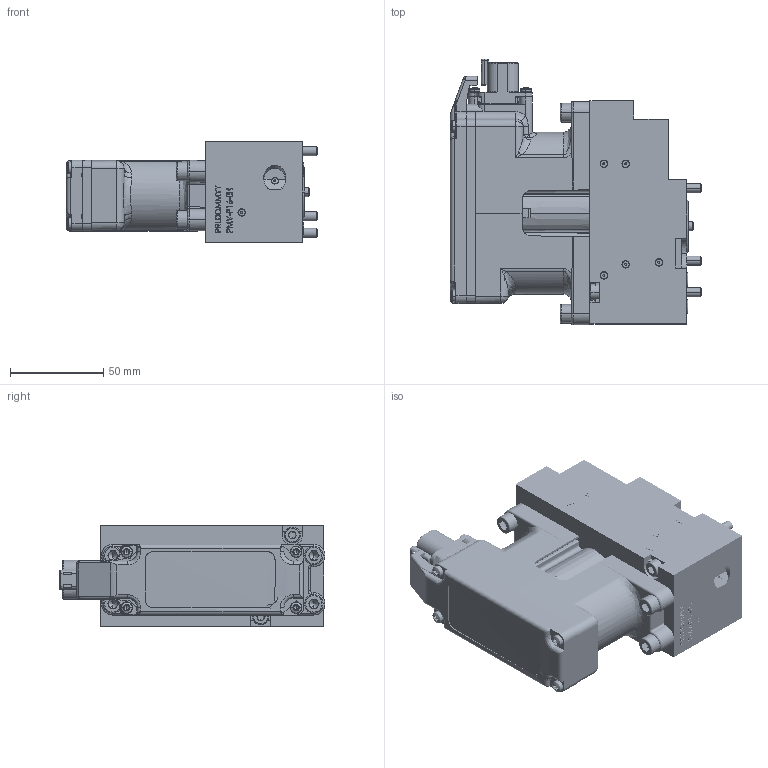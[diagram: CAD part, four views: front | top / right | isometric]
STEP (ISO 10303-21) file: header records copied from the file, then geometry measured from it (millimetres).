
FILE_DESCRIPTION (( 'STEP AP203' ), '1' );
FILE_NAME ('802.4508.STEP', '2024-02-22T07:53:36', ( '' ), ( '' ), 'SwSTEP 2.0', 'SolidWorks 2022', '' );
FILE_SCHEMA (( 'CONFIG_CONTROL_DESIGN' ));
Length unit declared in the file: millimetre
Products named in the file (9): EHA_Thomas_001; 0283782_001; 0074748_246.2156; 802.4508; 0074748_246.3518; 0290158_001; 0290158_010; 0299619_002; 0299672_001
Assembly tree (24 placements, depth 2):
  802.4508
    0299619_002
    0283782_001  x10
    0290158_010
    0290158_001  x3
    0074748_246.2156  x3
    0074748_246.3518  x4
    EHA_Thomas_001
    0299672_001
Bounding box: 135 x 142.8 x 54 mm (x, y, z)
Volume: 307287.8 mm3; surface area: 113210.6 mm2
Topology: 33 solids, 41 shells, 3343 faces, 8319 edges, 5099 vertices
Faces by surface type: plane 1036, cylinder 1031, cone 626, bspline 614, torus 36
Entity records: 114476 total; most frequent: CARTESIAN_POINT 53514, ORIENTED_EDGE 13728, DIRECTION 10749, EDGE_CURVE 6866, VERTEX_POINT 4337, AXIS2_PLACEMENT_3D 3980, EDGE_LOOP 2896, VECTOR 2789
